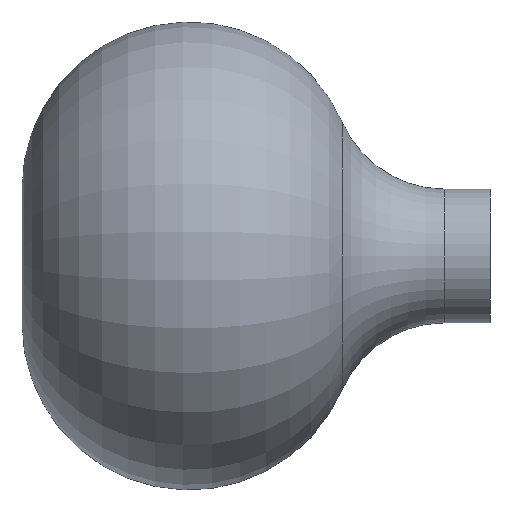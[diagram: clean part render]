
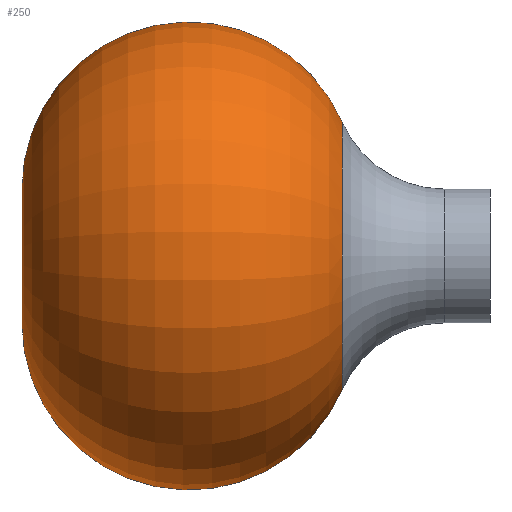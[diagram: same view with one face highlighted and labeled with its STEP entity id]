
A CAD part, left-side view. The second image highlights one B-rep face of the part: STEP entity #250.
In plain terms, the highlighted toroidal (fillet/blend) face has major radius 6 mm and minor radius 15 mm.
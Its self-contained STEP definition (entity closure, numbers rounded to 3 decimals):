
#23 = DIRECTION ( 'NONE',  ( -1., 0., 0. ) ) ;
#25 = DIRECTION ( 'NONE',  ( 0., 0., 1. ) ) ;
#37 = DIRECTION ( 'NONE',  ( 0., 0., 1. ) ) ;
#44 = AXIS2_PLACEMENT_3D ( 'NONE', #107, #290, #131 ) ;
#63 = CARTESIAN_POINT ( 'NONE',  ( 0., 27., 0. ) ) ;
#68 = EDGE_CURVE ( 'NONE', #386, #255, #241, .T. ) ;
#78 = ORIENTED_EDGE ( 'NONE', *, *, #68, .F. ) ;
#80 = TOROIDAL_SURFACE ( 'NONE', #141, 6., 15. ) ;
#88 = CARTESIAN_POINT ( 'NONE',  ( 0., 42., 6. ) ) ;
#91 = EDGE_LOOP ( 'NONE', ( #78, #109, #94, #344 ) ) ;
#94 = ORIENTED_EDGE ( 'NONE', *, *, #364, .T. ) ;
#99 = CARTESIAN_POINT ( 'NONE',  ( 0., 13.252, 12. ) ) ;
#107 = CARTESIAN_POINT ( 'NONE',  ( 0., 13.252, 0. ) ) ;
#109 = ORIENTED_EDGE ( 'NONE', *, *, #304, .F. ) ;
#110 = AXIS2_PLACEMENT_3D ( 'NONE', #277, #187, #37 ) ;
#111 = VERTEX_POINT ( 'NONE', #211 ) ;
#131 = DIRECTION ( 'NONE',  ( 0., 0., 1. ) ) ;
#135 = CIRCLE ( 'NONE', #286, 15. ) ;
#136 = EDGE_CURVE ( 'NONE', #339, #255, #226, .T. ) ;
#141 = AXIS2_PLACEMENT_3D ( 'NONE', #63, #402, #224 ) ;
#148 = DIRECTION ( 'NONE',  ( 1., 0., 0. ) ) ;
#156 = FACE_OUTER_BOUND ( 'NONE', #91, .T. ) ;
#176 = CARTESIAN_POINT ( 'NONE',  ( 0., 27., 6. ) ) ;
#187 = DIRECTION ( 'NONE',  ( 0., 1., 0. ) ) ;
#208 = CARTESIAN_POINT ( 'NONE',  ( 0., 13.252, -12. ) ) ;
#211 = CARTESIAN_POINT ( 'NONE',  ( 0., 42., -6. ) ) ;
#216 = CARTESIAN_POINT ( 'NONE',  ( 0., 27., -6. ) ) ;
#224 = DIRECTION ( 'NONE',  ( 0., 0., -1. ) ) ;
#226 = CIRCLE ( 'NONE', #44, 12. ) ;
#241 = CIRCLE ( 'NONE', #311, 15. ) ;
#250 = ADVANCED_FACE ( 'NONE', ( #156 ), #80, .T. ) ;
#255 = VERTEX_POINT ( 'NONE', #99 ) ;
#277 = CARTESIAN_POINT ( 'NONE',  ( 0., 42., 0. ) ) ;
#286 = AXIS2_PLACEMENT_3D ( 'NONE', #216, #23, #25 ) ;
#290 = DIRECTION ( 'NONE',  ( 0., 1., 0. ) ) ;
#304 = EDGE_CURVE ( 'NONE', #111, #386, #329, .T. ) ;
#311 = AXIS2_PLACEMENT_3D ( 'NONE', #176, #148, #363 ) ;
#329 = CIRCLE ( 'NONE', #110, 6. ) ;
#339 = VERTEX_POINT ( 'NONE', #208 ) ;
#344 = ORIENTED_EDGE ( 'NONE', *, *, #136, .T. ) ;
#363 = DIRECTION ( 'NONE',  ( 0., 0., -1. ) ) ;
#364 = EDGE_CURVE ( 'NONE', #111, #339, #135, .T. ) ;
#386 = VERTEX_POINT ( 'NONE', #88 ) ;
#402 = DIRECTION ( 'NONE',  ( 0., -1., 0. ) ) ;
